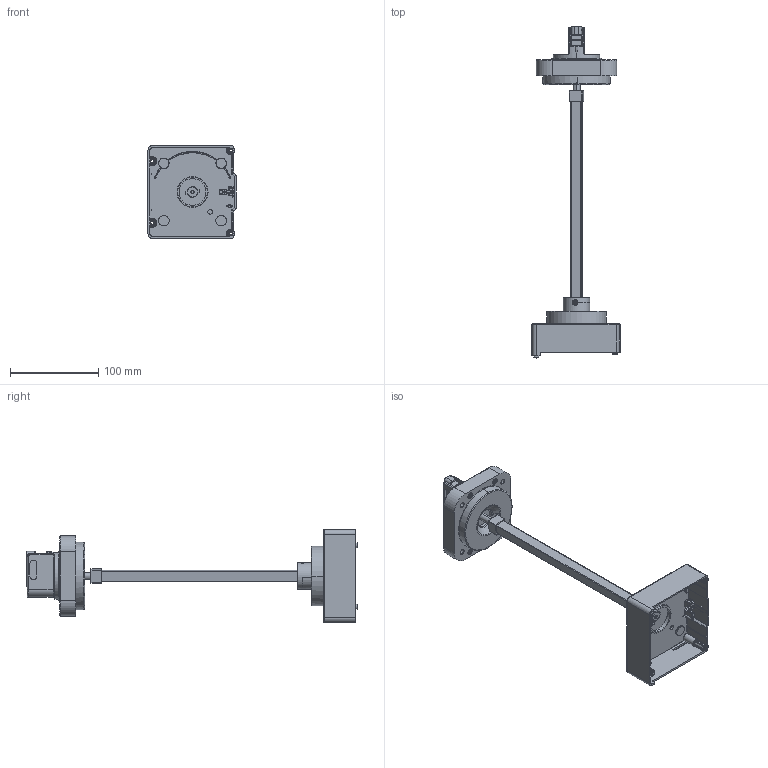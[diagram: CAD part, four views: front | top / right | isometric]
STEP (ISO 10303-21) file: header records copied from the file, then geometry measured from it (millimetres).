
FILE_DESCRIPTION(/* description */ (''),/* implementation_level */ '2;1');
FILE_NAME(/* name */ 'TFH25GP_3D DATA.stp',/* time_stamp */ '2018-06-05T13:12:47+09:00',/* author */ (''),/* organization */ (''),/* preprocessor_version */ 'ST-DEVELOPER v15',/* originating_system */ 'SIEMENS PLM Software NX 9.0',/* authorisation */ '');
FILE_SCHEMA (('AP203_CONFIGURATION_CONTROLLED_3D_DESIGN_OF_MECHANICAL_PARTS_AND_ASSEMBLIES_MIM_LF { 1 0 10303 403 2 1 2}'));
Products named in the file (6): M4_L50_PH_TAPPING_SCREW6580; G1_SHAFT_HEAD5281; U8_HM_LONG_SHAFT1882; g1_hm_cover_assy_asm_stp_stp; G1_SHAFT_ABCNE_ASSY_ASM1892; u2_hm_tfh_base_assy_asm_stp_stp
Assembly tree (5 placements, depth 3):
  u2_hm_tfh_base_assy_asm_stp_stp
    g1_hm_cover_assy_asm_stp_stp
    G1_SHAFT_ABCNE_ASSY_ASM1892
      U8_HM_LONG_SHAFT1882
      G1_SHAFT_HEAD5281
      M4_L50_PH_TAPPING_SCREW6580
Bounding box: 99.8 x 376.1 x 105 mm (x, y, z)
Volume: 317503.9 mm3; surface area: 144564.7 mm2
Topology: 5 solids, 7 shells, 3313 faces, 8521 edges, 5280 vertices
Faces by surface type: plane 1629, cylinder 895, torus 342, sphere 197, cone 98, bspline 87, extrusion 65
Full cylindrical faces by diameter (mm): 39.033 x1
Entity records: 106890 total; most frequent: CARTESIAN_POINT 25755, DIRECTION 16911, ORIENTED_EDGE 16798, EDGE_CURVE 8399, AXIS2_PLACEMENT_3D 5836, VERTEX_POINT 5278, VECTOR 5239, LINE 5174
